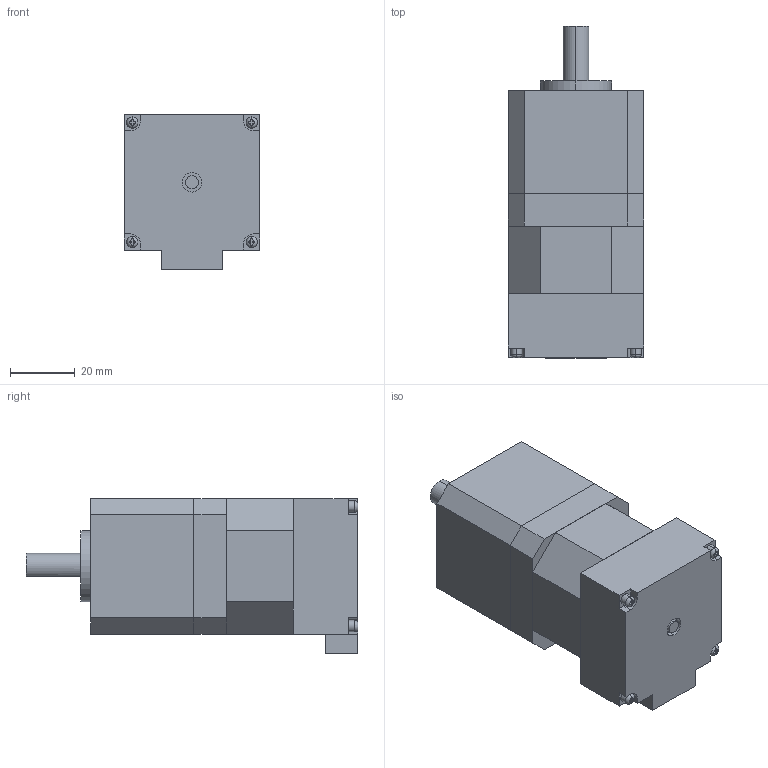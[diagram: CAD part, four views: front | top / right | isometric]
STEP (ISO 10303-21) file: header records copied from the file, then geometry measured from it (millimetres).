
FILE_DESCRIPTION (( 'STEP AP203' ), '1' );
FILE_NAME ('42PG020-D20-0448.STEP', '2019-10-12T09:40:27', ( 'China' ), ( 'Home' ), 'SwSTEP 2.0', 'SolidWorks 2016', '' );
FILE_SCHEMA (( 'CONFIG_CONTROL_DESIGN' ));
Length unit declared in the file: millimetre
Products named in the file (1): 42PG020-D20-0448
Bounding box: 42 x 102.8 x 48 mm (x, y, z)
Volume: 141457.1 mm3; surface area: 28396.7 mm2
Topology: 4 solids, 4 shells, 225 faces, 574 edges, 367 vertices
Faces by surface type: plane 145, cylinder 52, cone 20, torus 8
Entity records: 6789 total; most frequent: CARTESIAN_POINT 1253, DIRECTION 1128, ORIENTED_EDGE 1128, EDGE_CURVE 564, VECTOR 388, LINE 388, AXIS2_PLACEMENT_3D 370, VERTEX_POINT 367
